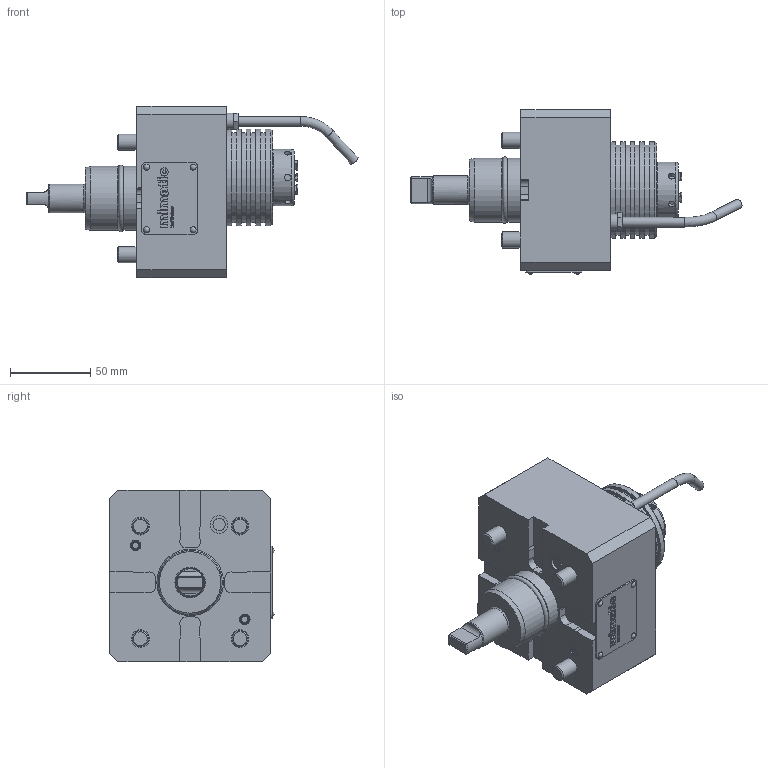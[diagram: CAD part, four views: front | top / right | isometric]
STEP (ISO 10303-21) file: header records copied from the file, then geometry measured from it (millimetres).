
FILE_DESCRIPTION(/* description */ (''),/* implementation_level */ '2;1');
FILE_NAME(/* name */ '202280',/* time_stamp */ '2023-04-26T08:24:55+02:00',/* author */ (''),/* organization */ (''),/* preprocessor_version */ 'ST-DEVELOPER v16.5',/* originating_system */ 'HiCAD 2017 2201.0 Build 268',/* authorisation */ '');
FILE_SCHEMA (('AUTOMOTIVE_DESIGN { 1 0 10303 214 1 1 1 1 }'));
Length unit declared in the file: millimetre
Products named in the file (14): Root; Teil; QRSTUVWXYZ[\]^_`ABCDEFGHIJKLMNOPQRSTUVWXYZ{|}~\X2\20AC0081201A0191
201E20262020202102C62030016020390152008D017D008F009020182019201C201D2022
2013201402DC21220160203A0152009D017D017800A000A100A200A300A400A500A600A7
00A800A900AA00AB00AC00AD00AE00AF00B000B100B200B300B4F5C2FFFD7FFE\X0\; GEWINDE; DIN 13-M6; Normteilgruppe _0
Assembly tree (13 placements, depth 3):
  Root
    Teil
      QRSTUVWXYZ[\]^_`ABCDEFGHIJKLMNOPQRSTUVWXYZ{|}~\X2\20AC0081201A0191
201E20262020202102C62030016020390152008D017D008F009020182019201C201D2022
2013201402DC21220160203A0152009D017D017800A000A100A200A300A400A500A600A7
00A800A900AA00AB00AC00AD00AE00AF00B000B100B200B300B4F5C2FFFD7FFE\X0\
      GEWINDE
      GEWINDE
      GEWINDE
      GEWINDE
      GEWINDE
      GEWINDE
      GEWINDE
      GEWINDE
      DIN 13-M6
      DIN 13-M6
      Normteilgruppe _0
Bounding box: 206.67 x 102.29 x 107 mm (x, y, z)
Volume: 699169.7 mm3; surface area: 96553.7 mm2
Topology: 16 solids, 20 shells, 634 faces, 1515 edges, 987 vertices
Faces by surface type: plane 351, cylinder 177, cone 41, bspline 38, torus 22, sphere 5
Full cylindrical faces by diameter (mm): 2.2 x4, 3.141 x2, 4 x3, 4.1 x6, 4.773 x4, 5 x2, 6 x9, 6.5 x4, 7.65 x1, 8.5 x8, 8.773 x2, 10 x13, 10.5 x1, 11 x4, 11.01 x1, 11.1 x1, 16 x4, 17 x4, 17.8 x1, 22.5 x1, 22.773 x2, 24 x2, 24.5 x1, 30 x1, 35 x1, 35.4 x1, 39.9 x2, 56 x4, 60 x5
Entity records: 38895 total; most frequent: CARTESIAN_POINT 9273, PRESENTATION_STYLE_ASSIGNMENT 3033, OVER_RIDING_STYLED_ITEM 3021, DIRECTION 2762, COLOUR_RGB 2657, DRAUGHTING_PRE_DEFINED_CURVE_FONT 2648, CURVE_STYLE 2648, ORIENTED_EDGE 2648
